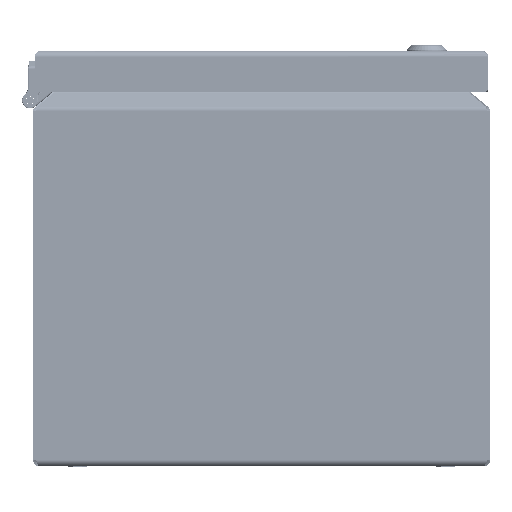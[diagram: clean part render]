
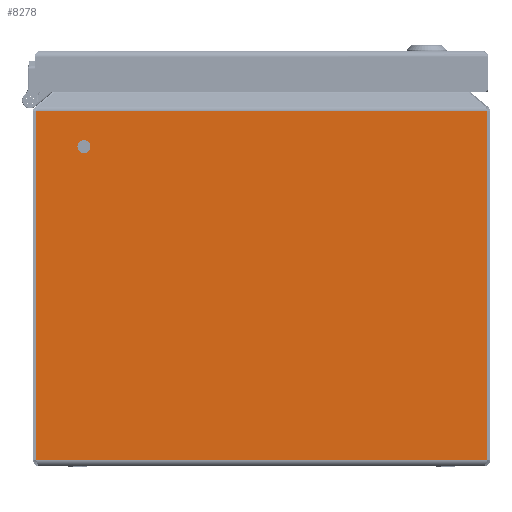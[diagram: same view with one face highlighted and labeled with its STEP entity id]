
A CAD part, front view. The second image highlights one B-rep face of the part: STEP entity #8278.
In plain terms, the highlighted planar face has unit normal (0, -1, 0).
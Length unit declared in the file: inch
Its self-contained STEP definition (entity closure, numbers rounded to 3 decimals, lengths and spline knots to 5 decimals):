
#448=DIRECTION('',(1.,0.,0.));
#449=VECTOR('',#448,8.88);
#450=CARTESIAN_POINT('',(-4.44,-12.,0.12));
#451=LINE('',#450,#449);
#3141=DIRECTION('',(1.,0.,0.));
#3142=VECTOR('',#3141,8.88);
#3143=CARTESIAN_POINT('',(-4.44,-12.,6.99304));
#3144=LINE('',#3143,#3142);
#3170=DIRECTION('',(0.,0.,1.));
#3171=VECTOR('',#3170,6.87304);
#3172=CARTESIAN_POINT('',(-4.44,-12.,0.12));
#3173=LINE('',#3172,#3171);
#3177=CARTESIAN_POINT('',(-3.5,-12.,6.299));
#3178=DIRECTION('',(0.,-1.,0.));
#3179=DIRECTION('',(0.,0.,-1.));
#3180=AXIS2_PLACEMENT_3D('',#3177,#3178,#3179);
#3185=CARTESIAN_POINT('',(-3.5,-12.,6.299));
#3186=DIRECTION('',(0.,-1.,0.));
#3187=DIRECTION('',(0.,0.,1.));
#3188=AXIS2_PLACEMENT_3D('',#3185,#3186,#3187);
#3193=DIRECTION('',(0.,0.,1.));
#3194=VECTOR('',#3193,6.87304);
#3195=CARTESIAN_POINT('',(4.44,-12.,0.12));
#3196=LINE('',#3195,#3194);
#3991=CARTESIAN_POINT('',(4.44,-12.,0.12));
#3992=CARTESIAN_POINT('',(4.44,-12.,6.99304));
#3993=VERTEX_POINT('',#3991);
#3994=VERTEX_POINT('',#3992);
#4015=CARTESIAN_POINT('',(-4.44,-12.,0.12));
#4016=CARTESIAN_POINT('',(-4.44,-12.,6.99304));
#4017=VERTEX_POINT('',#4015);
#4018=VERTEX_POINT('',#4016);
#4483=CARTESIAN_POINT('',(-3.5,-12.,6.2025));
#4484=CARTESIAN_POINT('',(-3.5,-12.,6.3955));
#4485=VERTEX_POINT('',#4483);
#4486=VERTEX_POINT('',#4484);
#8259=CARTESIAN_POINT('',(-4.5,-12.,0.));
#8260=DIRECTION('',(0.,-1.,0.));
#8261=DIRECTION('',(1.,0.,0.));
#8262=AXIS2_PLACEMENT_3D('',#8259,#8260,#8261);
#8263=PLANE('',#8262);
#8264=ORIENTED_EDGE('',*,*,#8249,.T.);
#8266=ORIENTED_EDGE('',*,*,#8265,.F.);
#8267=ORIENTED_EDGE('',*,*,#5132,.F.);
#8269=ORIENTED_EDGE('',*,*,#8268,.T.);
#8270=EDGE_LOOP('',(#8264,#8266,#8267,#8269));
#8271=FACE_OUTER_BOUND('',#8270,.F.);
#8273=ORIENTED_EDGE('',*,*,#8272,.T.);
#8275=ORIENTED_EDGE('',*,*,#8274,.T.);
#8276=EDGE_LOOP('',(#8273,#8275));
#8277=FACE_BOUND('',#8276,.F.);
#3181=CIRCLE('',#3180,0.0965);
#3189=CIRCLE('',#3188,0.0965);
#5132=EDGE_CURVE('',#4017,#3993,#451,.T.);
#8249=EDGE_CURVE('',#4018,#3994,#3144,.T.);
#8265=EDGE_CURVE('',#3993,#3994,#3196,.T.);
#8268=EDGE_CURVE('',#4017,#4018,#3173,.T.);
#8272=EDGE_CURVE('',#4485,#4486,#3181,.T.);
#8274=EDGE_CURVE('',#4486,#4485,#3189,.T.);
#8278=ADVANCED_FACE('',(#8271,#8277),#8263,.T.);
